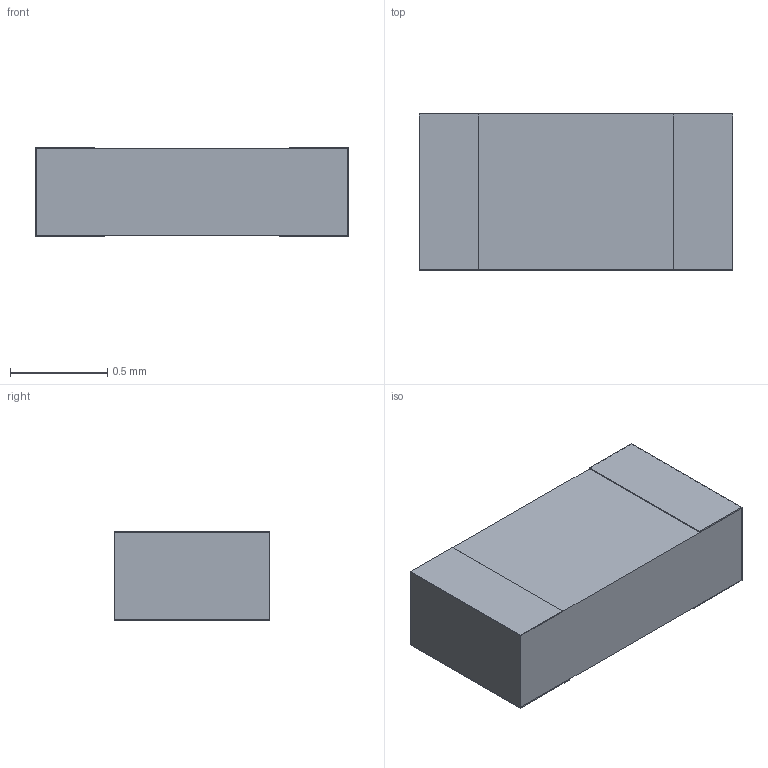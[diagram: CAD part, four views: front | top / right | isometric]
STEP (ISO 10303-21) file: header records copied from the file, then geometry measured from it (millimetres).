
FILE_DESCRIPTION(/* description */ (''),/* implementation_level */ '2;1');
FILE_NAME(/* name */ 'S2F0603.stp',/* time_stamp */ '2025-05-05T11:04:52+02:00',/* author */ ('jrancurel'),/* organization */ ('unknown'),/* preprocessor_version */ 'ST-DEVELOPER v19.2',/* originating_system */ 'Autodesk Inventor 2023',/* authorisation */ '');
FILE_SCHEMA (('AUTOMOTIVE_DESIGN { 1 0 10303 214 3 1 1 }'));
Length unit declared in the file: millimetre
Products named in the file (1): S2F0603
Bounding box: 1.61 x 0.8 x 0.46 mm (x, y, z)
Volume: 0.6 mm3; surface area: 8.3 mm2
Topology: 3 solids, 3 shells, 26 faces, 60 edges, 40 vertices
Faces by surface type: plane 26
Entity records: 783 total; most frequent: CARTESIAN_POINT 127, ORIENTED_EDGE 120, DIRECTION 114, LINE 60, VECTOR 60, EDGE_CURVE 60, VERTEX_POINT 40, AXIS2_PLACEMENT_3D 27
